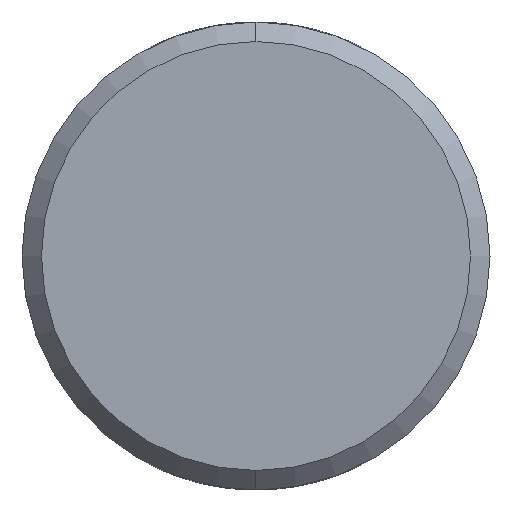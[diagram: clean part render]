
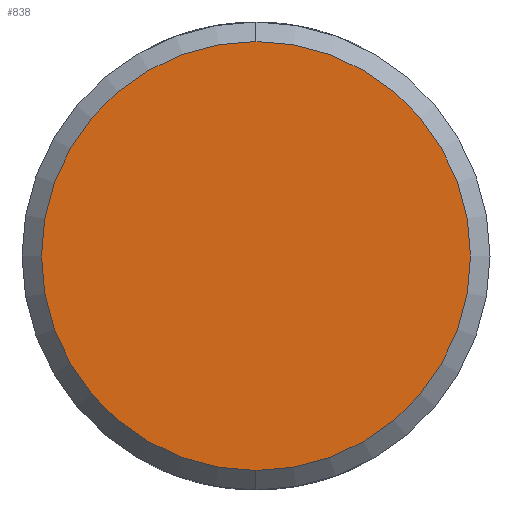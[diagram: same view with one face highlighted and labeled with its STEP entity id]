
A CAD part, left-side view. The second image highlights one B-rep face of the part: STEP entity #838.
In plain terms, the highlighted planar face has unit normal (-1, 0, 0).
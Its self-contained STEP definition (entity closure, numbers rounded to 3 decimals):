
#84 = AXIS2_PLACEMENT_3D ( 'NONE', #503, #187, #274 ) ;
#91 = DIRECTION ( 'NONE',  ( -1., 0., 0. ) ) ;
#136 = AXIS2_PLACEMENT_3D ( 'NONE', #432, #893, #982 ) ;
#158 = AXIS2_PLACEMENT_3D ( 'NONE', #552, #91, #628 ) ;
#187 = DIRECTION ( 'NONE',  ( -1., 0., 0. ) ) ;
#194 = ORIENTED_EDGE ( 'NONE', *, *, #739, .T. ) ;
#222 = VERTEX_POINT ( 'NONE', #960 ) ;
#274 = DIRECTION ( 'NONE',  ( 0., 0., -1. ) ) ;
#358 = PLANE ( 'NONE',  #136 ) ;
#432 = CARTESIAN_POINT ( 'NONE',  ( -43.5, 0., 0. ) ) ;
#465 = VERTEX_POINT ( 'NONE', #662 ) ;
#503 = CARTESIAN_POINT ( 'NONE',  ( -43.5, 0., 0. ) ) ;
#552 = CARTESIAN_POINT ( 'NONE',  ( -43.5, 0., 0. ) ) ;
#592 = FACE_OUTER_BOUND ( 'NONE', #785, .T. ) ;
#628 = DIRECTION ( 'NONE',  ( 0., 0., -1. ) ) ;
#662 = CARTESIAN_POINT ( 'NONE',  ( -43.5, 0., 5.5 ) ) ;
#739 = EDGE_CURVE ( 'NONE', #465, #222, #774, .T. ) ;
#774 = CIRCLE ( 'NONE', #84, 5.5 ) ;
#785 = EDGE_LOOP ( 'NONE', ( #947, #194 ) ) ;
#838 = ADVANCED_FACE ( 'NONE', ( #592 ), #358, .F. ) ;
#893 = DIRECTION ( 'NONE',  ( 1., 0., 0. ) ) ;
#921 = CIRCLE ( 'NONE', #158, 5.5 ) ;
#947 = ORIENTED_EDGE ( 'NONE', *, *, #954, .T. ) ;
#954 = EDGE_CURVE ( 'NONE', #222, #465, #921, .T. ) ;
#960 = CARTESIAN_POINT ( 'NONE',  ( -43.5, 0., -5.5 ) ) ;
#982 = DIRECTION ( 'NONE',  ( 0., 0., -1. ) ) ;
